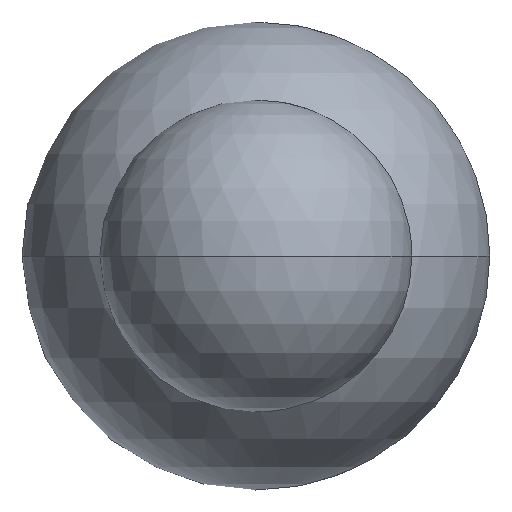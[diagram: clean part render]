
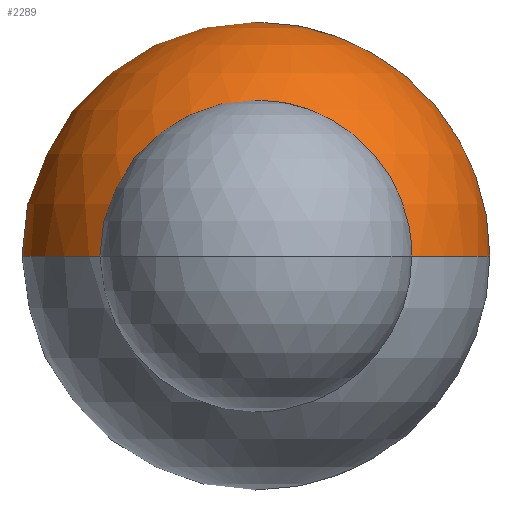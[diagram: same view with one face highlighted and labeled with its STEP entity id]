
A CAD part, front view. The second image highlights one B-rep face of the part: STEP entity #2289.
In plain terms, the highlighted spherical face has radius 150 mm.
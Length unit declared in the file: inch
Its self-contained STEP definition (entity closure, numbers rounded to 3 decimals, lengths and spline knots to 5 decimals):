
#85 = AXIS2_PLACEMENT_3D ( 'NONE', #2665, #452, #795 ) ;
#267 = DIRECTION ( 'NONE',  ( 0., 1., 0. ) ) ;
#325 = FACE_OUTER_BOUND ( 'NONE', #686, .T. ) ;
#371 = DIRECTION ( 'NONE',  ( 0., 0., -1. ) ) ;
#452 = DIRECTION ( 'NONE',  ( 0., 0., 1. ) ) ;
#515 = VERTEX_POINT ( 'NONE', #3997 ) ;
#584 = CARTESIAN_POINT ( 'NONE',  ( -1.1811, 5.7862, 0. ) ) ;
#686 = EDGE_LOOP ( 'NONE', ( #3839, #2852, #4609, #4167 ) ) ;
#711 = CARTESIAN_POINT ( 'NONE',  ( 0., 0., 0. ) ) ;
#795 = DIRECTION ( 'NONE',  ( 1., 0., 0. ) ) ;
#1058 = SPHERICAL_SURFACE ( 'NONE', #4056, 5.90551 ) ;
#1159 = EDGE_CURVE ( 'NONE', #3418, #2407, #2729, .T. ) ;
#1388 = CIRCLE ( 'NONE', #4105, 5.90551 ) ;
#1420 = CARTESIAN_POINT ( 'NONE',  ( 0., 0., 0. ) ) ;
#1442 = DIRECTION ( 'NONE',  ( 0., 0., -1. ) ) ;
#1524 = CARTESIAN_POINT ( 'NONE',  ( 0.7874, -5.85278, 0. ) ) ;
#1633 = EDGE_CURVE ( 'NONE', #4343, #2407, #2189, .T. ) ;
#1965 = AXIS2_PLACEMENT_3D ( 'NONE', #4419, #3626, #2580 ) ;
#2189 = CIRCLE ( 'NONE', #85, 5.90551 ) ;
#2289 = ADVANCED_FACE ( 'NONE', ( #325 ), #1058, .T. ) ;
#2407 = VERTEX_POINT ( 'NONE', #3137 ) ;
#2580 = DIRECTION ( 'NONE',  ( -1., 0., 0. ) ) ;
#2665 = CARTESIAN_POINT ( 'NONE',  ( 0., 0., 0. ) ) ;
#2729 = CIRCLE ( 'NONE', #4503, 1.1811 ) ;
#2852 = ORIENTED_EDGE ( 'NONE', *, *, #3295, .T. ) ;
#2891 = DIRECTION ( 'NONE',  ( -1., 0., 0. ) ) ;
#2969 = DIRECTION ( 'NONE',  ( 1., 0., 0. ) ) ;
#3124 = CIRCLE ( 'NONE', #1965, 0.7874 ) ;
#3137 = CARTESIAN_POINT ( 'NONE',  ( 1.1811, 5.7862, 0. ) ) ;
#3295 = EDGE_CURVE ( 'NONE', #515, #4343, #3124, .T. ) ;
#3418 = VERTEX_POINT ( 'NONE', #584 ) ;
#3626 = DIRECTION ( 'NONE',  ( 0., 1., 0. ) ) ;
#3839 = ORIENTED_EDGE ( 'NONE', *, *, #4721, .F. ) ;
#3997 = CARTESIAN_POINT ( 'NONE',  ( -0.7874, -5.85278, 0. ) ) ;
#4056 = AXIS2_PLACEMENT_3D ( 'NONE', #711, #371, #2969 ) ;
#4105 = AXIS2_PLACEMENT_3D ( 'NONE', #1420, #1442, #4409 ) ;
#4167 = ORIENTED_EDGE ( 'NONE', *, *, #1159, .F. ) ;
#4343 = VERTEX_POINT ( 'NONE', #1524 ) ;
#4409 = DIRECTION ( 'NONE',  ( -1., 0., 0. ) ) ;
#4419 = CARTESIAN_POINT ( 'NONE',  ( 0., -5.85278, 0. ) ) ;
#4503 = AXIS2_PLACEMENT_3D ( 'NONE', #4651, #267, #2891 ) ;
#4609 = ORIENTED_EDGE ( 'NONE', *, *, #1633, .T. ) ;
#4651 = CARTESIAN_POINT ( 'NONE',  ( 0., 5.7862, 0. ) ) ;
#4721 = EDGE_CURVE ( 'NONE', #515, #3418, #1388, .T. ) ;
